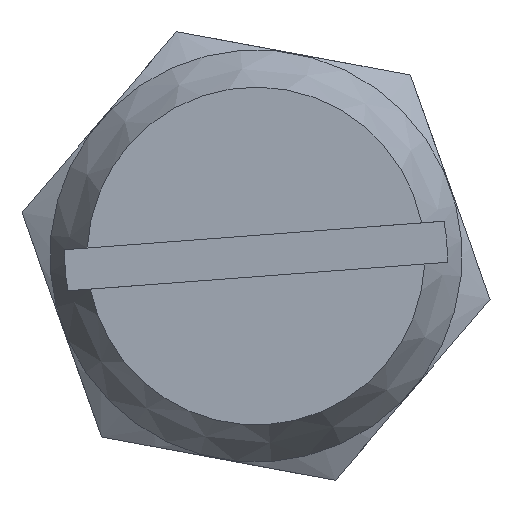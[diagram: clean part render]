
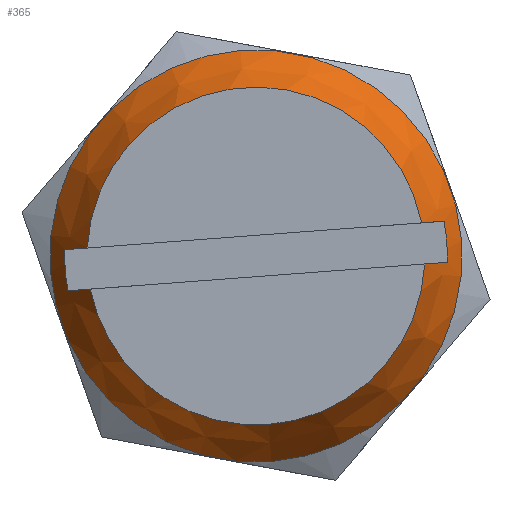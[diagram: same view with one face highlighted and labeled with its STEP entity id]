
A CAD part, left-side view. The second image highlights one B-rep face of the part: STEP entity #365.
In plain terms, the highlighted conical face has half-angle 30 degrees and reference radius 7.278 mm.
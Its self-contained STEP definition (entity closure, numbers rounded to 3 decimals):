
#251=CARTESIAN_POINT('',(15.595,0.053,0.));
#252=DIRECTION('',(1.0,0.,0.));
#253=DIRECTION('',(0.,-0.075,-0.997));
#254=AXIS2_PLACEMENT_3D('',#251,#252,#253);
#255=CONICAL_SURFACE('',#254,7.278,30.);
#256=CARTESIAN_POINT('',(15.845,-7.366,-0.245));
#257=VERTEX_POINT('',#256);
#258=CARTESIAN_POINT('',(14.345,-6.496,-0.31));
#259=VERTEX_POINT('',#258);
#260=CARTESIAN_POINT('',(15.845,-7.366,-0.245));
#261=CARTESIAN_POINT('',(15.048,-6.904,-0.28));
#262=CARTESIAN_POINT('',(14.345,-6.496,-0.31));
#270=(BOUNDED_CURVE()B_SPLINE_CURVE(2,(#260,#261,#262),.UNSPECIFIED.,.F.,.U.)B_SPLINE_CURVE_WITH_KNOTS((3,3),(0.0,0.173),.UNSPECIFIED.)CURVE()GEOMETRIC_REPRESENTATION_ITEM()RATIONAL_B_SPLINE_CURVE((1.0,1.002,1.0))REPRESENTATION_ITEM(''));
#271=EDGE_CURVE('',#257,#259,#270,.T.);
#272=ORIENTED_EDGE('',*,*,#271,.T.);
#273=CARTESIAN_POINT('',(14.345,6.482,-1.285));
#274=VERTEX_POINT('',#273);
#275=CARTESIAN_POINT('',(14.345,0.053,0.));
#276=DIRECTION('',(1.0,0.,0.));
#277=DIRECTION('',(0.,-0.075,-0.997));
#278=AXIS2_PLACEMENT_3D('',#275,#276,#277);
#279=CIRCLE('',#278,6.557);
#280=EDGE_CURVE('',#259,#274,#279,.T.);
#281=ORIENTED_EDGE('',*,*,#280,.T.);
#282=CARTESIAN_POINT('',(15.845,7.352,-1.35));
#283=VERTEX_POINT('',#282);
#284=CARTESIAN_POINT('',(14.345,6.482,-1.285));
#285=CARTESIAN_POINT('',(15.048,6.89,-1.316));
#286=CARTESIAN_POINT('',(15.845,7.352,-1.35));
#294=(BOUNDED_CURVE()B_SPLINE_CURVE(2,(#284,#285,#286),.UNSPECIFIED.,.F.,.U.)B_SPLINE_CURVE_WITH_KNOTS((3,3),(0.0,0.173),.UNSPECIFIED.)CURVE()GEOMETRIC_REPRESENTATION_ITEM()RATIONAL_B_SPLINE_CURVE((1.0,1.002,1.0))REPRESENTATION_ITEM(''));
#295=EDGE_CURVE('',#274,#283,#294,.T.);
#296=ORIENTED_EDGE('',*,*,#295,.T.);
#297=CARTESIAN_POINT('',(15.845,7.471,0.245));
#298=VERTEX_POINT('',#297);
#299=CARTESIAN_POINT('',(15.845,0.053,0.));
#300=DIRECTION('',(1.0,0.,0.));
#301=DIRECTION('',(0.,-0.075,-0.997));
#302=AXIS2_PLACEMENT_3D('',#299,#300,#301);
#303=CIRCLE('',#302,7.423);
#304=EDGE_CURVE('',#283,#298,#303,.T.);
#305=ORIENTED_EDGE('',*,*,#304,.T.);
#306=CARTESIAN_POINT('',(14.345,6.602,0.31));
#307=VERTEX_POINT('',#306);
#308=CARTESIAN_POINT('',(15.845,7.471,0.245));
#309=CARTESIAN_POINT('',(15.048,7.01,0.28));
#310=CARTESIAN_POINT('',(14.345,6.602,0.31));
#318=(BOUNDED_CURVE()B_SPLINE_CURVE(2,(#308,#309,#310),.UNSPECIFIED.,.F.,.U.)B_SPLINE_CURVE_WITH_KNOTS((3,3),(0.0,0.173),.UNSPECIFIED.)CURVE()GEOMETRIC_REPRESENTATION_ITEM()RATIONAL_B_SPLINE_CURVE((1.0,1.002,1.0))REPRESENTATION_ITEM(''));
#319=EDGE_CURVE('',#298,#307,#318,.T.);
#320=ORIENTED_EDGE('',*,*,#319,.T.);
#321=CARTESIAN_POINT('',(14.345,-6.377,1.285));
#322=VERTEX_POINT('',#321);
#323=CARTESIAN_POINT('',(14.345,0.053,0.));
#324=DIRECTION('',(1.0,0.,0.));
#325=DIRECTION('',(0.,-0.075,-0.997));
#326=AXIS2_PLACEMENT_3D('',#323,#324,#325);
#327=CIRCLE('',#326,6.557);
#328=EDGE_CURVE('',#307,#322,#327,.T.);
#329=ORIENTED_EDGE('',*,*,#328,.T.);
#330=CARTESIAN_POINT('',(15.845,-7.246,1.35));
#331=VERTEX_POINT('',#330);
#332=CARTESIAN_POINT('',(14.345,-6.377,1.285));
#333=CARTESIAN_POINT('',(15.048,-6.784,1.316));
#334=CARTESIAN_POINT('',(15.845,-7.246,1.35));
#342=(BOUNDED_CURVE()B_SPLINE_CURVE(2,(#332,#333,#334),.UNSPECIFIED.,.F.,.U.)B_SPLINE_CURVE_WITH_KNOTS((3,3),(0.0,0.173),.UNSPECIFIED.)CURVE()GEOMETRIC_REPRESENTATION_ITEM()RATIONAL_B_SPLINE_CURVE((1.0,1.002,1.0))REPRESENTATION_ITEM(''));
#343=EDGE_CURVE('',#322,#331,#342,.T.);
#344=ORIENTED_EDGE('',*,*,#343,.T.);
#345=CARTESIAN_POINT('',(15.845,0.053,0.));
#346=DIRECTION('',(1.0,0.,0.));
#347=DIRECTION('',(0.,-0.075,-0.997));
#348=AXIS2_PLACEMENT_3D('',#345,#346,#347);
#349=CIRCLE('',#348,7.423);
#350=EDGE_CURVE('',#331,#257,#349,.T.);
#351=ORIENTED_EDGE('',*,*,#350,.T.);
#352=EDGE_LOOP('',(#272,#281,#296,#305,#320,#329,#344,#351));
#353=FACE_OUTER_BOUND('',#352,.T.);
#354=CARTESIAN_POINT('',(16.845,-0.546,-7.978));
#355=VERTEX_POINT('',#354);
#356=CARTESIAN_POINT('',(16.845,0.053,0.));
#357=DIRECTION('',(1.,0.,0.));
#358=DIRECTION('',(0.,-0.075,-0.997));
#359=AXIS2_PLACEMENT_3D('',#356,#357,#358);
#360=CIRCLE('',#359,8.0);
#361=EDGE_CURVE('',#355,#355,#360,.T.);
#362=ORIENTED_EDGE('',*,*,#361,.F.);
#363=EDGE_LOOP('',(#362));
#364=FACE_BOUND('',#363,.T.);
#365=ADVANCED_FACE('',(#353,#364),#255,.T.);
